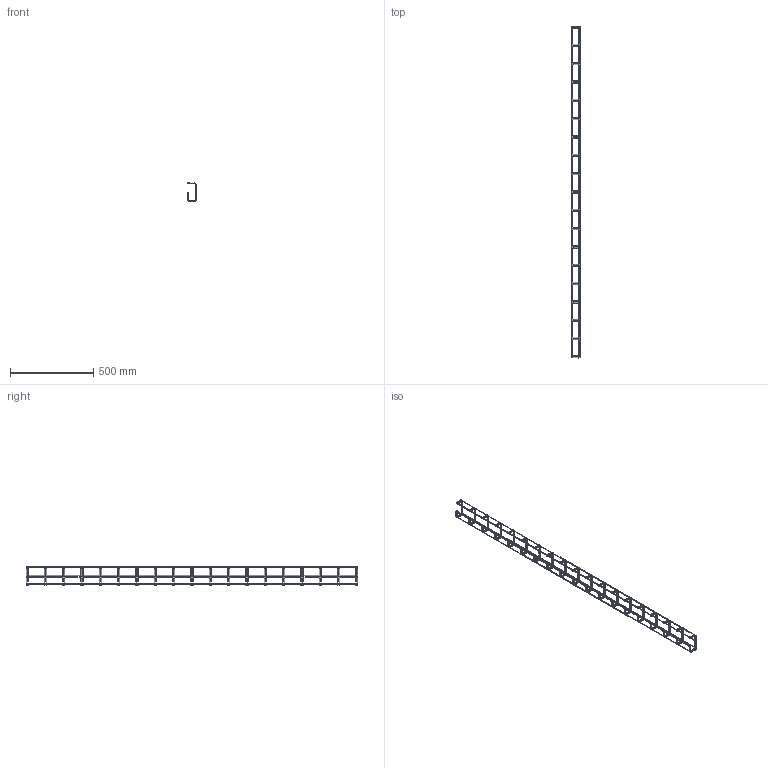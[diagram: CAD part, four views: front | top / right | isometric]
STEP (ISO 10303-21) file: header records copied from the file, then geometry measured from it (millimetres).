
FILE_DESCRIPTION(/* description */ (''),/* implementation_level */ '2;1');
FILE_NAME(/* name */ 'M2_050×100_G',/* time_stamp */ '2012-11-29T21:59:53+01:00',/* author */ (''),/* organization */ (''),/* preprocessor_version */ 'ST-DEVELOPER v10',/* originating_system */ '',/* authorisation */ '');
FILE_SCHEMA (('AUTOMOTIVE_DESIGN_CC2'));
Length unit declared in the file: millimetre
Products named in the file (1): 1
Bounding box: 55.47 x 1993.51 x 110.31 mm (x, y, z)
Surface area: 252723.2 mm2 (no closed solid volume)
Topology: 0 solids, 394 shells, 776 faces, 2305 edges, 1542 vertices
Faces by surface type: bspline 764, plane 12
Entity records: 62702 total; most frequent: CARTESIAN_POINT 48240, ORIENTED_EDGE 3068, EDGE_CURVE 2304, VERTEX_POINT 1540, ADVANCED_FACE 776, FACE_OUTER_BOUND 776, EDGE_LOOP 776, B_SPLINE_CURVE_WITH_KNOTS 760
